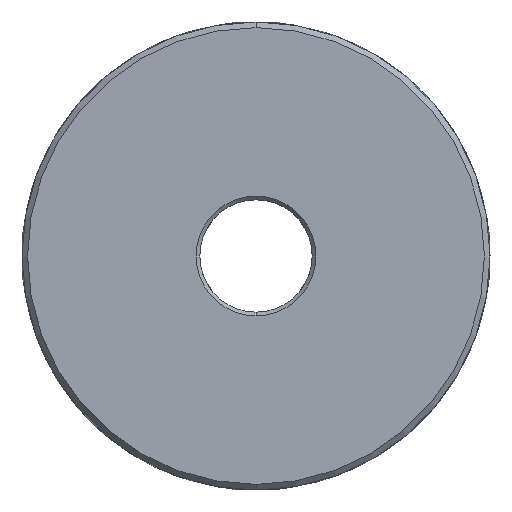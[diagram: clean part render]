
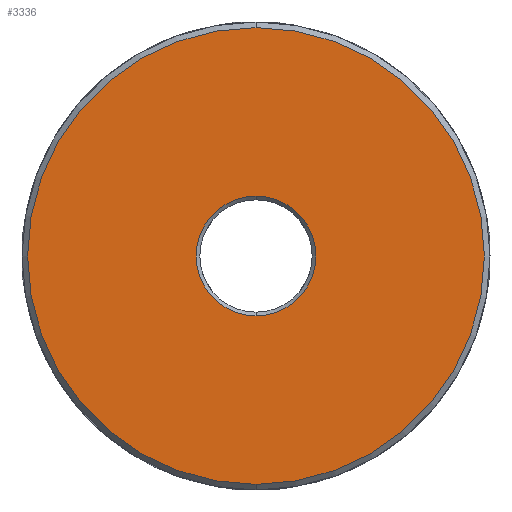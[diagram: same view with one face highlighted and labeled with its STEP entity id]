
A CAD part, front view. The second image highlights one B-rep face of the part: STEP entity #3336.
In plain terms, the highlighted planar face has unit normal (0, -1, 0).
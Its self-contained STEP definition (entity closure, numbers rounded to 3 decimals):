
#26 = AXIS2_PLACEMENT_3D ( 'NONE', #6845, #3339, #7495 ) ;
#211 = FACE_BOUND ( 'NONE', #389, .T. ) ;
#389 = EDGE_LOOP ( 'NONE', ( #7589, #2007 ) ) ;
#559 = DIRECTION ( 'NONE',  ( 0., 0., 1. ) ) ;
#919 = ORIENTED_EDGE ( 'NONE', *, *, #3252, .T. ) ;
#964 = AXIS2_PLACEMENT_3D ( 'NONE', #5342, #4822, #1912 ) ;
#1220 = CIRCLE ( 'NONE', #5311, 6.4 ) ;
#1567 = AXIS2_PLACEMENT_3D ( 'NONE', #4623, #5795, #2324 ) ;
#1573 = VERTEX_POINT ( 'NONE', #4316 ) ;
#1653 = AXIS2_PLACEMENT_3D ( 'NONE', #3697, #3158, #3673 ) ;
#1783 = CARTESIAN_POINT ( 'NONE',  ( 0., 0., -6.4 ) ) ;
#1912 = DIRECTION ( 'NONE',  ( 0., 0., 1. ) ) ;
#1937 = PLANE ( 'NONE',  #1653 ) ;
#2007 = ORIENTED_EDGE ( 'NONE', *, *, #3210, .T. ) ;
#2324 = DIRECTION ( 'NONE',  ( 0., 0., 1. ) ) ;
#2729 = VERTEX_POINT ( 'NONE', #6102 ) ;
#3158 = DIRECTION ( 'NONE',  ( 0., 1., 0. ) ) ;
#3168 = VERTEX_POINT ( 'NONE', #1783 ) ;
#3210 = EDGE_CURVE ( 'NONE', #2729, #3168, #1220, .T. ) ;
#3252 = EDGE_CURVE ( 'NONE', #5941, #1573, #3295, .T. ) ;
#3295 = CIRCLE ( 'NONE', #964, 24.4 ) ;
#3336 = ADVANCED_FACE ( 'NONE', ( #211, #4225 ), #1937, .F. ) ;
#3339 = DIRECTION ( 'NONE',  ( 0., -1., 0. ) ) ;
#3488 = CARTESIAN_POINT ( 'NONE',  ( 0., 0., 0. ) ) ;
#3673 = DIRECTION ( 'NONE',  ( 0., 0., 1. ) ) ;
#3697 = CARTESIAN_POINT ( 'NONE',  ( -50., 0., 32.858 ) ) ;
#3763 = EDGE_LOOP ( 'NONE', ( #919, #5367 ) ) ;
#4127 = CIRCLE ( 'NONE', #1567, 6.4 ) ;
#4225 = FACE_OUTER_BOUND ( 'NONE', #3763, .T. ) ;
#4253 = EDGE_CURVE ( 'NONE', #3168, #2729, #4127, .T. ) ;
#4316 = CARTESIAN_POINT ( 'NONE',  ( 0., 0., -24.4 ) ) ;
#4623 = CARTESIAN_POINT ( 'NONE',  ( 0., 0., 0. ) ) ;
#4822 = DIRECTION ( 'NONE',  ( 0., -1., 0. ) ) ;
#5311 = AXIS2_PLACEMENT_3D ( 'NONE', #3488, #5745, #559 ) ;
#5342 = CARTESIAN_POINT ( 'NONE',  ( 0., 0., 0. ) ) ;
#5367 = ORIENTED_EDGE ( 'NONE', *, *, #6894, .T. ) ;
#5745 = DIRECTION ( 'NONE',  ( 0., 1., 0. ) ) ;
#5795 = DIRECTION ( 'NONE',  ( 0., 1., 0. ) ) ;
#5801 = CIRCLE ( 'NONE', #26, 24.4 ) ;
#5941 = VERTEX_POINT ( 'NONE', #7379 ) ;
#6102 = CARTESIAN_POINT ( 'NONE',  ( 0., 0., 6.4 ) ) ;
#6845 = CARTESIAN_POINT ( 'NONE',  ( 0., 0., 0. ) ) ;
#6894 = EDGE_CURVE ( 'NONE', #1573, #5941, #5801, .T. ) ;
#7379 = CARTESIAN_POINT ( 'NONE',  ( 0., 0., 24.4 ) ) ;
#7495 = DIRECTION ( 'NONE',  ( 0., 0., 1. ) ) ;
#7589 = ORIENTED_EDGE ( 'NONE', *, *, #4253, .T. ) ;
